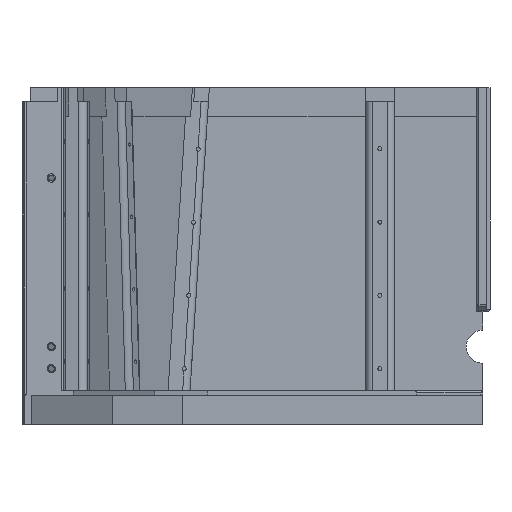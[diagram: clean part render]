
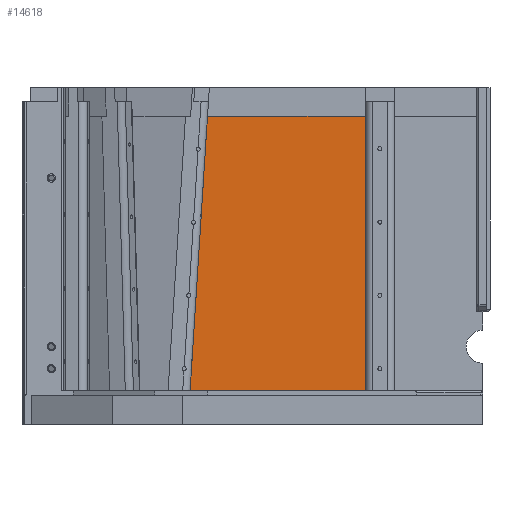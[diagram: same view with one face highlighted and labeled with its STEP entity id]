
A CAD part, front view. The second image highlights one B-rep face of the part: STEP entity #14618.
In plain terms, the highlighted planar face has unit normal (0, -1, 0).
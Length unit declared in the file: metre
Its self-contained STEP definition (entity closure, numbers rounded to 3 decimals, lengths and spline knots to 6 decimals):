
#695=LINE('',#21695,#2029);
#751=LINE('',#21827,#2085);
#884=LINE('',#22262,#2218);
#885=LINE('',#22263,#2219);
#2029=VECTOR('',#17156,1.);
#2085=VECTOR('',#17248,1.);
#2218=VECTOR('',#17547,1.);
#2219=VECTOR('',#17548,1.);
#3707=ORIENTED_EDGE('',*,*,#7801,.F.);
#3708=ORIENTED_EDGE('',*,*,#7547,.T.);
#3709=ORIENTED_EDGE('',*,*,#7802,.F.);
#3710=ORIENTED_EDGE('',*,*,#7611,.F.);
#7547=EDGE_CURVE('',#9634,#9633,#695,.T.);
#7611=EDGE_CURVE('',#9691,#9692,#751,.T.);
#7801=EDGE_CURVE('',#9634,#9691,#884,.T.);
#7802=EDGE_CURVE('',#9692,#9633,#885,.T.);
#9633=VERTEX_POINT('',#21694);
#9634=VERTEX_POINT('',#21696);
#9691=VERTEX_POINT('',#21826);
#9692=VERTEX_POINT('',#21828);
#11594=EDGE_LOOP('',(#3707,#3708,#3709,#3710));
#12835=FACE_BOUND('',#11594,.T.);
#14034=PLANE('',#15614);
#14618=ADVANCED_FACE('',(#12835),#14034,.F.);
#15614=AXIS2_PLACEMENT_3D('',#22261,#17545,#17546);
#17156=DIRECTION('',(-0.063,0.,-0.998));
#17248=DIRECTION('',(0.,0.,-1.));
#17545=DIRECTION('',(0.,1.,0.));
#17546=DIRECTION('',(1.,0.,0.));
#17547=DIRECTION('',(1.,0.,0.));
#17548=DIRECTION('',(-1.,0.,0.));
#21694=CARTESIAN_POINT('',(-0.199444,0.405,0.003));
#21695=CARTESIAN_POINT('',(-0.17258,0.405,0.425951));
#21696=CARTESIAN_POINT('',(-0.187566,0.405,0.19));
#21826=CARTESIAN_POINT('',(-0.08,0.405,0.19));
#21827=CARTESIAN_POINT('',(-0.08,0.405,0.425002));
#21828=CARTESIAN_POINT('',(-0.08,0.405,0.003));
#22261=CARTESIAN_POINT('',(-0.0025,0.405,0.612147));
#22262=CARTESIAN_POINT('',(-0.095783,0.405,0.19));
#22263=CARTESIAN_POINT('',(-0.0025,0.405,0.003));
